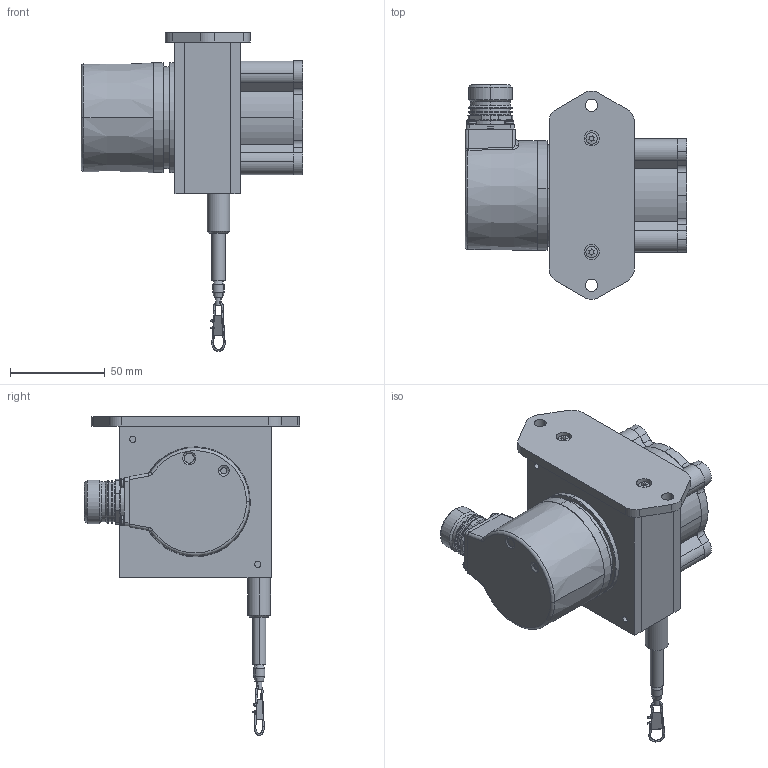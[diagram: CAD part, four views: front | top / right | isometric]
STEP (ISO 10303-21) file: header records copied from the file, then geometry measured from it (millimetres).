
FILE_DESCRIPTION (( 'STEP AP214' ), '1' );
FILE_NAME ('D8.4B1.0200.6324.G123.STEP', '2009-04-02T06:59:06', ( 'admin' ), ( 'Fritz Kübler GmbH' ), 'SwSTEP 2.0', 'SolidWorks 2008', '' );
FILE_SCHEMA (( 'AUTOMOTIVE_DESIGN' ));
Length unit declared in the file: millimetre
Products named in the file (1): D8.4B1.0200.6324.G123
Bounding box: 117 x 113.5 x 168.32 mm (x, y, z)
Volume: 208996.9 mm3; surface area: 126377.3 mm2
Topology: 37 solids, 39 shells, 1473 faces, 3491 edges, 2139 vertices
Faces by surface type: cylinder 622, plane 429, cone 244, torus 94, bspline 52, sphere 32
Entity records: 61554 total; most frequent: CARTESIAN_POINT 10568, DIRECTION 7659, ORIENTED_EDGE 6842, EDGE_CURVE 3421, AXIS2_PLACEMENT_3D 3119, VERTEX_POINT 2139, EDGE_LOOP 1702, CIRCLE 1697
